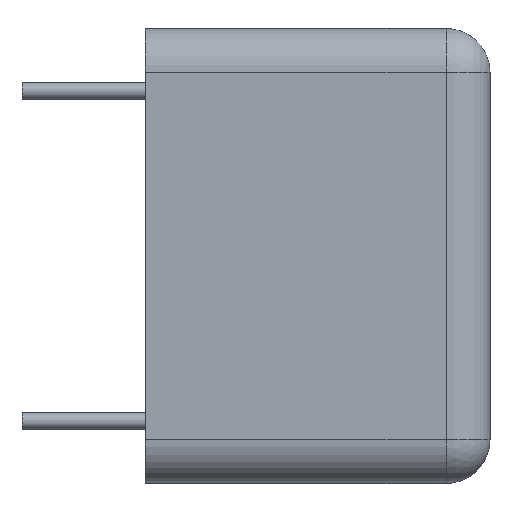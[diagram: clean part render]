
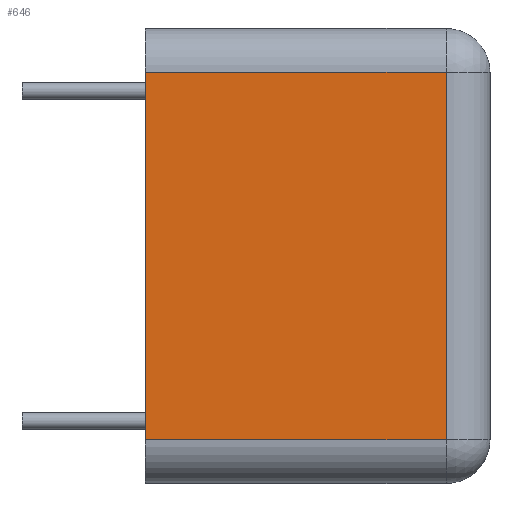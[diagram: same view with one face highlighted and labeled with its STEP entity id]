
A CAD part, left-side view. The second image highlights one B-rep face of the part: STEP entity #646.
In plain terms, the highlighted planar face has unit normal (-1, 0, 0).
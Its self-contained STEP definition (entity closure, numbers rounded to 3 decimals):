
#13 = CARTESIAN_POINT ( 'NONE',  ( -12.05, -8.75, 7. ) ) ;
#38 = AXIS2_PLACEMENT_3D ( 'NONE', #319, #723, #376 ) ;
#72 = DIRECTION ( 'NONE',  ( 0., 0., 1. ) ) ;
#85 = ORIENTED_EDGE ( 'NONE', *, *, #676, .F. ) ;
#96 = CARTESIAN_POINT ( 'NONE',  ( -12.05, 0.5, 5.65 ) ) ;
#97 = VECTOR ( 'NONE', #72, 1000. ) ;
#168 = ORIENTED_EDGE ( 'NONE', *, *, #424, .T. ) ;
#171 = CARTESIAN_POINT ( 'NONE',  ( -12.05, -10.1, -5.65 ) ) ;
#175 = LINE ( 'NONE', #583, #533 ) ;
#204 = PLANE ( 'NONE',  #38 ) ;
#210 = LINE ( 'NONE', #244, #315 ) ;
#229 = LINE ( 'NONE', #13, #97 ) ;
#244 = CARTESIAN_POINT ( 'NONE',  ( -12.05, 0.5, -5.65 ) ) ;
#277 = VERTEX_POINT ( 'NONE', #501 ) ;
#288 = EDGE_CURVE ( 'NONE', #328, #277, #505, .T. ) ;
#315 = VECTOR ( 'NONE', #408, 1000. ) ;
#319 = CARTESIAN_POINT ( 'NONE',  ( -12.05, -10.1, -7. ) ) ;
#328 = VERTEX_POINT ( 'NONE', #333 ) ;
#333 = CARTESIAN_POINT ( 'NONE',  ( -12.05, 0.5, -5.65 ) ) ;
#349 = VECTOR ( 'NONE', #682, 1000. ) ;
#353 = VERTEX_POINT ( 'NONE', #689 ) ;
#376 = DIRECTION ( 'NONE',  ( 0., 0., 1. ) ) ;
#397 = EDGE_CURVE ( 'NONE', #277, #353, #229, .T. ) ;
#408 = DIRECTION ( 'NONE',  ( 0., 0., 1. ) ) ;
#415 = DIRECTION ( 'NONE',  ( 0., 1., 0. ) ) ;
#424 = EDGE_CURVE ( 'NONE', #353, #524, #175, .T. ) ;
#439 = FACE_OUTER_BOUND ( 'NONE', #716, .T. ) ;
#495 = ORIENTED_EDGE ( 'NONE', *, *, #288, .T. ) ;
#501 = CARTESIAN_POINT ( 'NONE',  ( -12.05, -8.75, -5.65 ) ) ;
#505 = LINE ( 'NONE', #171, #349 ) ;
#507 = ORIENTED_EDGE ( 'NONE', *, *, #397, .T. ) ;
#524 = VERTEX_POINT ( 'NONE', #96 ) ;
#533 = VECTOR ( 'NONE', #415, 1000. ) ;
#583 = CARTESIAN_POINT ( 'NONE',  ( -12.05, -10.1, 5.65 ) ) ;
#646 = ADVANCED_FACE ( 'NONE', ( #439 ), #204, .T. ) ;
#676 = EDGE_CURVE ( 'NONE', #328, #524, #210, .T. ) ;
#682 = DIRECTION ( 'NONE',  ( 0., -1., 0. ) ) ;
#689 = CARTESIAN_POINT ( 'NONE',  ( -12.05, -8.75, 5.65 ) ) ;
#716 = EDGE_LOOP ( 'NONE', ( #168, #85, #495, #507 ) ) ;
#723 = DIRECTION ( 'NONE',  ( -1., 0., 0. ) ) ;
